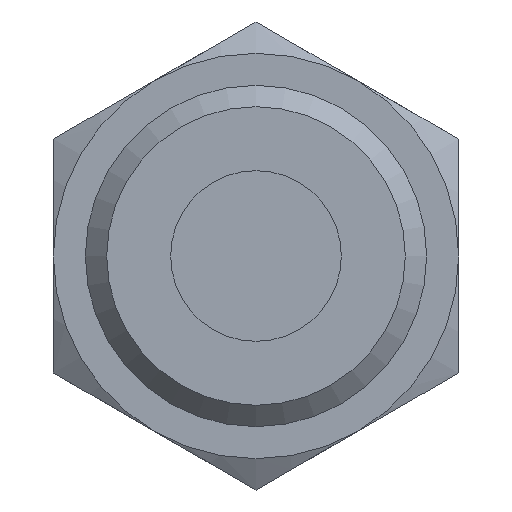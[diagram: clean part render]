
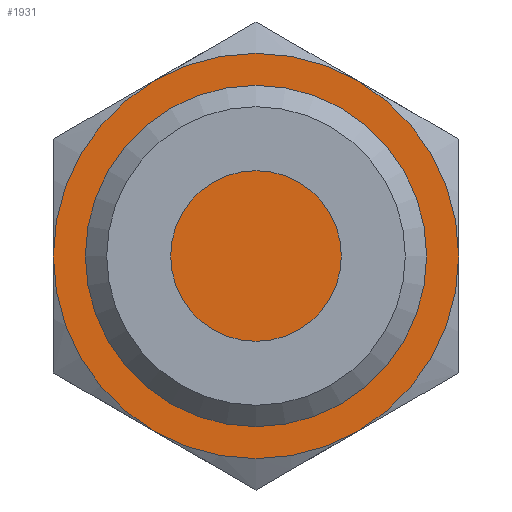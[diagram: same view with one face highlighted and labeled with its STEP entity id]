
A CAD part, front view. The second image highlights one B-rep face of the part: STEP entity #1931.
In plain terms, the highlighted planar face has unit normal (0, -1, 0).
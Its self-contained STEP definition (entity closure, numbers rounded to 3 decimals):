
#1527=CARTESIAN_POINT('',(4.75,-23.0,-8.227));
#1528=VERTEX_POINT('',#1527);
#1542=CARTESIAN_POINT('',(9.5,-23.0,0.));
#1543=VERTEX_POINT('',#1542);
#1557=CARTESIAN_POINT('',(0.0,-23.0,0.0));
#1558=DIRECTION('',(0.0,-1.0,0.0));
#1559=DIRECTION('',(0.0,0.0,1.0));
#1560=AXIS2_PLACEMENT_3D('',#1557,#1558,#1559);
#1561=CIRCLE('',#1560,9.5);
#1562=EDGE_CURVE('',#1528,#1543,#1561,.T.);
#1574=CARTESIAN_POINT('',(-4.75,-23.0,-8.227));
#1575=VERTEX_POINT('',#1574);
#1602=CARTESIAN_POINT('',(0.0,-23.0,0.0));
#1603=DIRECTION('',(0.0,-1.0,0.0));
#1604=DIRECTION('',(0.0,0.0,1.0));
#1605=AXIS2_PLACEMENT_3D('',#1602,#1603,#1604);
#1606=CIRCLE('',#1605,9.5);
#1607=EDGE_CURVE('',#1575,#1528,#1606,.T.);
#1619=CARTESIAN_POINT('',(-9.5,-23.0,0.));
#1620=VERTEX_POINT('',#1619);
#1647=CARTESIAN_POINT('',(0.0,-23.0,0.0));
#1648=DIRECTION('',(0.0,-1.0,0.0));
#1649=DIRECTION('',(0.0,0.0,1.0));
#1650=AXIS2_PLACEMENT_3D('',#1647,#1648,#1649);
#1651=CIRCLE('',#1650,9.5);
#1652=EDGE_CURVE('',#1620,#1575,#1651,.T.);
#1677=CARTESIAN_POINT('',(-4.75,-23.0,8.227));
#1678=VERTEX_POINT('',#1677);
#1679=CARTESIAN_POINT('',(0.0,-23.0,0.0));
#1680=DIRECTION('',(0.0,-1.0,0.0));
#1681=DIRECTION('',(0.0,0.0,1.0));
#1682=AXIS2_PLACEMENT_3D('',#1679,#1680,#1681);
#1683=CIRCLE('',#1682,9.5);
#1684=EDGE_CURVE('',#1678,#1620,#1683,.T.);
#1722=CARTESIAN_POINT('',(4.75,-23.0,8.227));
#1723=VERTEX_POINT('',#1722);
#1724=CARTESIAN_POINT('',(0.0,-23.0,0.0));
#1725=DIRECTION('',(0.0,-1.0,0.0));
#1726=DIRECTION('',(0.0,0.0,1.0));
#1727=AXIS2_PLACEMENT_3D('',#1724,#1725,#1726);
#1728=CIRCLE('',#1727,9.5);
#1729=EDGE_CURVE('',#1723,#1678,#1728,.T.);
#1767=CARTESIAN_POINT('',(0.0,-23.0,0.0));
#1768=DIRECTION('',(0.0,-1.0,0.0));
#1769=DIRECTION('',(0.0,0.0,1.0));
#1770=AXIS2_PLACEMENT_3D('',#1767,#1768,#1769);
#1771=CIRCLE('',#1770,9.5);
#1772=EDGE_CURVE('',#1543,#1723,#1771,.T.);
#1918=CARTESIAN_POINT('',(0.,-23.0,0.));
#1919=DIRECTION('',(0.0,1.0,0.0));
#1920=DIRECTION('',(0.0,0.0,1.0));
#1921=AXIS2_PLACEMENT_3D('',#1918,#1919,#1920);
#1922=PLANE('',#1921);
#1923=ORIENTED_EDGE('',*,*,#1772,.T.);
#1924=ORIENTED_EDGE('',*,*,#1729,.T.);
#1925=ORIENTED_EDGE('',*,*,#1684,.T.);
#1926=ORIENTED_EDGE('',*,*,#1652,.T.);
#1927=ORIENTED_EDGE('',*,*,#1607,.T.);
#1928=ORIENTED_EDGE('',*,*,#1562,.T.);
#1929=EDGE_LOOP('',(#1923,#1924,#1925,#1926,#1927,#1928));
#1930=FACE_OUTER_BOUND('',#1929,.T.);
#1931=ADVANCED_FACE('',(#1930),#1922,.F.);
